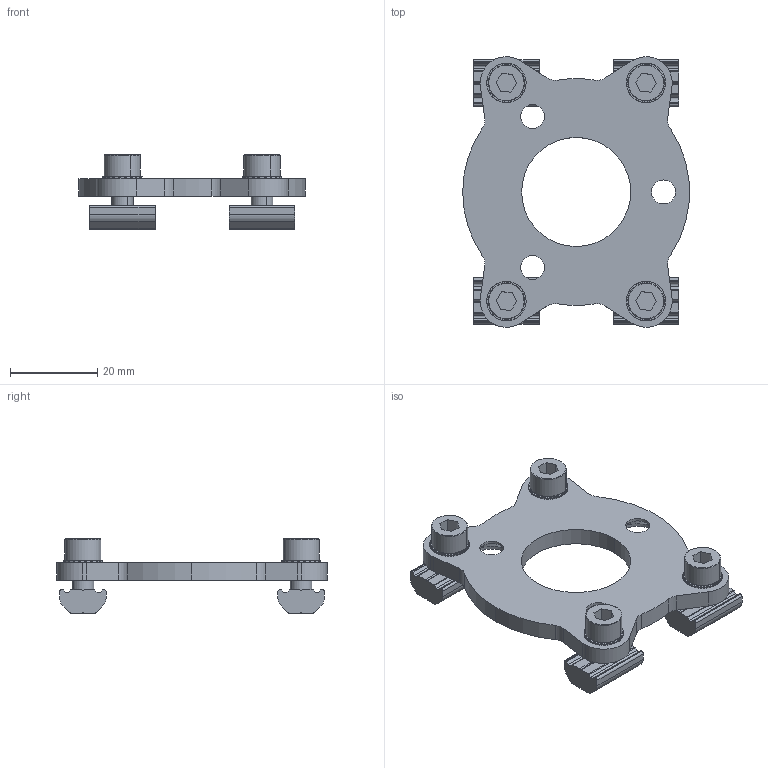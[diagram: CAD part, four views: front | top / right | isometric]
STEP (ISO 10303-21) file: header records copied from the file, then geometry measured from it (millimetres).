
FILE_DESCRIPTION (( 'STEP AP203' ), '1' );
FILE_NAME ('SIP-50B.STEP', '2024-08-12T01:40:04', ( '微软用户' ), ( '微软中国' ), 'SwSTEP 2.0', 'SolidWorks 2018', '' );
FILE_SCHEMA (( 'CONFIG_CONTROL_DESIGN' ));
Length unit declared in the file: millimetre
Products named in the file (5): SIP-50B; PTC-M5L12; PTS-M5; PTN-M5
Assembly tree (13 placements, depth 2):
  SIP-50B
    SIP-50B
    PTC-M5L12  x4
    PTS-M5  x4
    PTN-M5  x4
Bounding box: 51.9 x 61.99 x 17 mm (x, y, z)
Volume: 11989.6 mm3; surface area: 10287 mm2
Topology: 13 solids, 13 shells, 963 faces, 2827 edges, 1882 vertices
Faces by surface type: plane 786, cylinder 147, cone 30
Entity records: 10476 total; most frequent: CARTESIAN_POINT 1788, DIRECTION 1737, ORIENTED_EDGE 1670, EDGE_CURVE 835, AXIS2_PLACEMENT_3D 617, VERTEX_POINT 556, VECTOR 503, LINE 503
